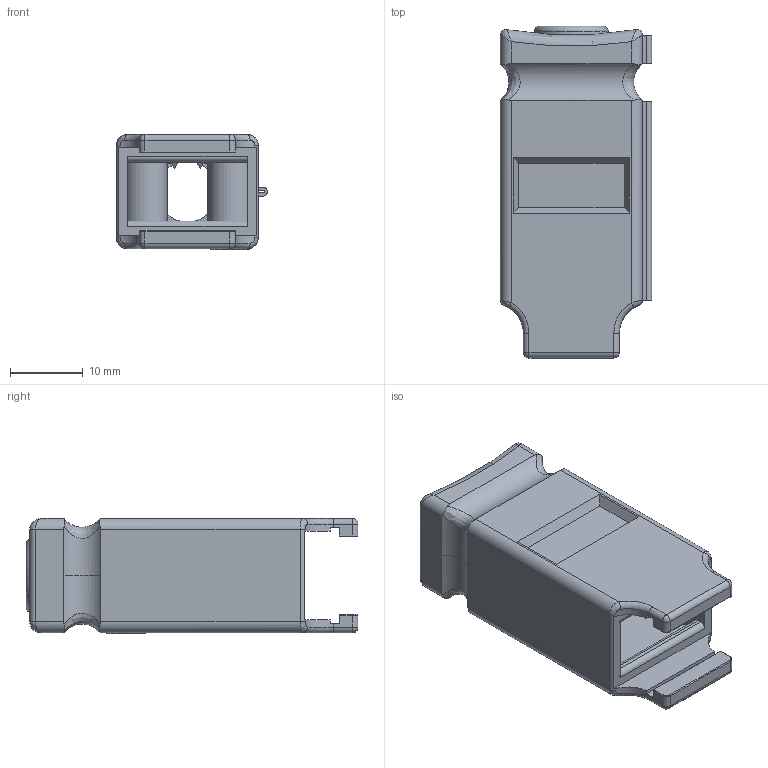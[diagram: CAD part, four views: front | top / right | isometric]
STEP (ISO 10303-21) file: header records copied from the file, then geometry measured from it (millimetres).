
FILE_DESCRIPTION((''),'2;1');
FILE_NAME('D:\_NTC CAD MODELS & ASSEMBLIES - STEP\STEP FILES\covers - ntc\cp series -\cp_09str\cp_09str_assy.stp','2016-04-27T16:33:00',('j_dipietro'),(''),'Autodesk Inventor 2012','Autodesk Inventor 2012','');
FILE_SCHEMA(('CONFIG_CONTROL_DESIGN'));
Length unit declared in the file: inch
Products named in the file (3): cp_09str_assy; cp_09str; B71219164
Assembly tree (3 placements, depth 2):
  cp_09str_assy
    cp_09str
    B71219164  x2
Bounding box: 20.83 x 45.72 x 15.84 mm (x, y, z)
Volume: 5540.1 mm3; surface area: 7048.3 mm2
Topology: 3 solids, 3 shells, 272 faces, 847 edges, 581 vertices
Faces by surface type: plane 142, cylinder 79, bspline 28, torus 13, cone 6, sphere 4
Full cylindrical faces by diameter (mm): 2.159 x2, 3.048 x2, 8.382 x1, 10.16 x1
Entity records: 14109 total; most frequent: CARTESIAN_POINT 7919, ORIENTED_EDGE 1372, DIRECTION 1137, EDGE_CURVE 686, VERTEX_POINT 469, AXIS2_PLACEMENT_3D 387, VECTOR 363, LINE 363
